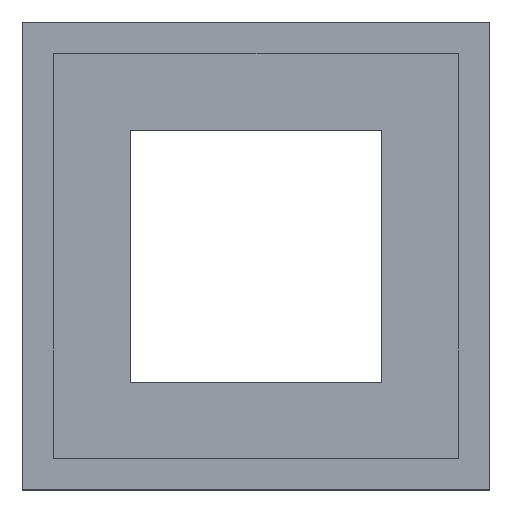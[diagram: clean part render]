
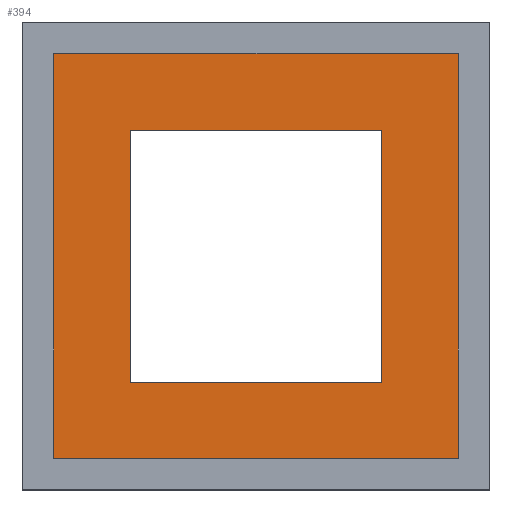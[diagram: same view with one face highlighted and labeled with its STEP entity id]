
A CAD part, top view. The second image highlights one B-rep face of the part: STEP entity #394.
In plain terms, the highlighted planar face has unit normal (0, 0, 1).
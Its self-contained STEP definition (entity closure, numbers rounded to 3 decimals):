
#233 = PLANE('',#234);
#234 = AXIS2_PLACEMENT_3D('',#235,#236,#237);
#235 = CARTESIAN_POINT('',(-11.25,-11.25,1.4));
#236 = DIRECTION('',(0.,1.,0.));
#237 = DIRECTION('',(0.,0.,1.));
#259 = PLANE('',#260);
#260 = AXIS2_PLACEMENT_3D('',#261,#262,#263);
#261 = CARTESIAN_POINT('',(-11.25,-11.25,1.4));
#262 = DIRECTION('',(1.,0.,0.));
#263 = DIRECTION('',(0.,0.,1.));
#285 = PLANE('',#286);
#286 = AXIS2_PLACEMENT_3D('',#287,#288,#289);
#287 = CARTESIAN_POINT('',(-11.25,11.25,1.4));
#288 = DIRECTION('',(0.,1.,0.));
#289 = DIRECTION('',(0.,0.,1.));
#309 = PLANE('',#310);
#310 = AXIS2_PLACEMENT_3D('',#311,#312,#313);
#311 = CARTESIAN_POINT('',(11.25,-11.25,1.4));
#312 = DIRECTION('',(1.,0.,0.));
#313 = DIRECTION('',(0.,0.,1.));
#324 = VERTEX_POINT('',#325);
#325 = CARTESIAN_POINT('',(-11.25,-11.25,1.5));
#346 = EDGE_CURVE('',#324,#347,#349,.T.);
#347 = VERTEX_POINT('',#348);
#348 = CARTESIAN_POINT('',(-11.25,11.25,1.5));
#349 = SURFACE_CURVE('',#350,(#354,#360),.PCURVE_S1.);
#350 = LINE('',#351,#352);
#351 = CARTESIAN_POINT('',(-11.25,-12.125,1.5));
#352 = VECTOR('',#353,1.);
#353 = DIRECTION('',(0.,1.,0.));
#354 = PCURVE('',#259,#355);
#355 = DEFINITIONAL_REPRESENTATION('',(#356),#359);
#356 = B_SPLINE_CURVE_WITH_KNOTS('',1,(#357,#358),.UNSPECIFIED.,.F.,.F.,
  (2,2),(0.875,23.375),.PIECEWISE_BEZIER_KNOTS.);
#357 = CARTESIAN_POINT('',(0.1,0.));
#358 = CARTESIAN_POINT('',(0.1,-22.5));
#359 = ( GEOMETRIC_REPRESENTATION_CONTEXT(2) 
PARAMETRIC_REPRESENTATION_CONTEXT() REPRESENTATION_CONTEXT('2D SPACE',''
  ) );
#360 = PCURVE('',#361,#366);
#361 = PLANE('',#362);
#362 = AXIS2_PLACEMENT_3D('',#363,#364,#365);
#363 = CARTESIAN_POINT('',(-13.,-13.,1.5));
#364 = DIRECTION('',(0.,0.,1.));
#365 = DIRECTION('',(1.,0.,0.));
#366 = DEFINITIONAL_REPRESENTATION('',(#367),#371);
#367 = LINE('',#368,#369);
#368 = CARTESIAN_POINT('',(1.75,0.875));
#369 = VECTOR('',#370,1.);
#370 = DIRECTION('',(0.,1.));
#371 = ( GEOMETRIC_REPRESENTATION_CONTEXT(2) 
PARAMETRIC_REPRESENTATION_CONTEXT() REPRESENTATION_CONTEXT('2D SPACE',''
  ) );
#394 = ADVANCED_FACE('',(#395,#462),#361,.T.);
#395 = FACE_BOUND('',#396,.T.);
#396 = EDGE_LOOP('',(#397,#419,#441,#461));
#397 = ORIENTED_EDGE('',*,*,#398,.F.);
#398 = EDGE_CURVE('',#399,#324,#401,.T.);
#399 = VERTEX_POINT('',#400);
#400 = CARTESIAN_POINT('',(11.25,-11.25,1.5));
#401 = SURFACE_CURVE('',#402,(#406,#413),.PCURVE_S1.);
#402 = LINE('',#403,#404);
#403 = CARTESIAN_POINT('',(-12.125,-11.25,1.5));
#404 = VECTOR('',#405,1.);
#405 = DIRECTION('',(-1.,0.,0.));
#406 = PCURVE('',#361,#407);
#407 = DEFINITIONAL_REPRESENTATION('',(#408),#412);
#408 = LINE('',#409,#410);
#409 = CARTESIAN_POINT('',(0.875,1.75));
#410 = VECTOR('',#411,1.);
#411 = DIRECTION('',(-1.,0.));
#412 = ( GEOMETRIC_REPRESENTATION_CONTEXT(2) 
PARAMETRIC_REPRESENTATION_CONTEXT() REPRESENTATION_CONTEXT('2D SPACE',''
  ) );
#413 = PCURVE('',#233,#414);
#414 = DEFINITIONAL_REPRESENTATION('',(#415),#418);
#415 = B_SPLINE_CURVE_WITH_KNOTS('',1,(#416,#417),.UNSPECIFIED.,.F.,.F.,
  (2,2),(-23.375,-0.875),.PIECEWISE_BEZIER_KNOTS.);
#416 = CARTESIAN_POINT('',(0.1,22.5));
#417 = CARTESIAN_POINT('',(0.1,0.));
#418 = ( GEOMETRIC_REPRESENTATION_CONTEXT(2) 
PARAMETRIC_REPRESENTATION_CONTEXT() REPRESENTATION_CONTEXT('2D SPACE',''
  ) );
#419 = ORIENTED_EDGE('',*,*,#420,.T.);
#420 = EDGE_CURVE('',#399,#421,#423,.T.);
#421 = VERTEX_POINT('',#422);
#422 = CARTESIAN_POINT('',(11.25,11.25,1.5));
#423 = SURFACE_CURVE('',#424,(#428,#435),.PCURVE_S1.);
#424 = LINE('',#425,#426);
#425 = CARTESIAN_POINT('',(11.25,-12.125,1.5));
#426 = VECTOR('',#427,1.);
#427 = DIRECTION('',(0.,1.,0.));
#428 = PCURVE('',#361,#429);
#429 = DEFINITIONAL_REPRESENTATION('',(#430),#434);
#430 = LINE('',#431,#432);
#431 = CARTESIAN_POINT('',(24.25,0.875));
#432 = VECTOR('',#433,1.);
#433 = DIRECTION('',(0.,1.));
#434 = ( GEOMETRIC_REPRESENTATION_CONTEXT(2) 
PARAMETRIC_REPRESENTATION_CONTEXT() REPRESENTATION_CONTEXT('2D SPACE',''
  ) );
#435 = PCURVE('',#309,#436);
#436 = DEFINITIONAL_REPRESENTATION('',(#437),#440);
#437 = B_SPLINE_CURVE_WITH_KNOTS('',1,(#438,#439),.UNSPECIFIED.,.F.,.F.,
  (2,2),(0.875,23.375),.PIECEWISE_BEZIER_KNOTS.);
#438 = CARTESIAN_POINT('',(0.1,0.));
#439 = CARTESIAN_POINT('',(0.1,-22.5));
#440 = ( GEOMETRIC_REPRESENTATION_CONTEXT(2) 
PARAMETRIC_REPRESENTATION_CONTEXT() REPRESENTATION_CONTEXT('2D SPACE',''
  ) );
#441 = ORIENTED_EDGE('',*,*,#442,.T.);
#442 = EDGE_CURVE('',#421,#347,#443,.T.);
#443 = SURFACE_CURVE('',#444,(#448,#455),.PCURVE_S1.);
#444 = LINE('',#445,#446);
#445 = CARTESIAN_POINT('',(-12.125,11.25,1.5));
#446 = VECTOR('',#447,1.);
#447 = DIRECTION('',(-1.,0.,0.));
#448 = PCURVE('',#361,#449);
#449 = DEFINITIONAL_REPRESENTATION('',(#450),#454);
#450 = LINE('',#451,#452);
#451 = CARTESIAN_POINT('',(0.875,24.25));
#452 = VECTOR('',#453,1.);
#453 = DIRECTION('',(-1.,0.));
#454 = ( GEOMETRIC_REPRESENTATION_CONTEXT(2) 
PARAMETRIC_REPRESENTATION_CONTEXT() REPRESENTATION_CONTEXT('2D SPACE',''
  ) );
#455 = PCURVE('',#285,#456);
#456 = DEFINITIONAL_REPRESENTATION('',(#457),#460);
#457 = B_SPLINE_CURVE_WITH_KNOTS('',1,(#458,#459),.UNSPECIFIED.,.F.,.F.,
  (2,2),(-23.375,-0.875),.PIECEWISE_BEZIER_KNOTS.);
#458 = CARTESIAN_POINT('',(0.1,22.5));
#459 = CARTESIAN_POINT('',(0.1,0.));
#460 = ( GEOMETRIC_REPRESENTATION_CONTEXT(2) 
PARAMETRIC_REPRESENTATION_CONTEXT() REPRESENTATION_CONTEXT('2D SPACE',''
  ) );
#461 = ORIENTED_EDGE('',*,*,#346,.F.);
#462 = FACE_BOUND('',#463,.T.);
#463 = EDGE_LOOP('',(#464,#492,#518,#544));
#464 = ORIENTED_EDGE('',*,*,#465,.T.);
#465 = EDGE_CURVE('',#466,#468,#470,.T.);
#466 = VERTEX_POINT('',#467);
#467 = CARTESIAN_POINT('',(7.,-7.,1.5));
#468 = VERTEX_POINT('',#469);
#469 = CARTESIAN_POINT('',(-7.,-7.,1.5));
#470 = SURFACE_CURVE('',#471,(#475,#481),.PCURVE_S1.);
#471 = LINE('',#472,#473);
#472 = CARTESIAN_POINT('',(-10.,-7.,1.5));
#473 = VECTOR('',#474,1.);
#474 = DIRECTION('',(-1.,0.,0.));
#475 = PCURVE('',#361,#476);
#476 = DEFINITIONAL_REPRESENTATION('',(#477),#480);
#477 = B_SPLINE_CURVE_WITH_KNOTS('',1,(#478,#479),.UNSPECIFIED.,.F.,.F.,
  (2,2),(-17.,-3.),.PIECEWISE_BEZIER_KNOTS.);
#478 = CARTESIAN_POINT('',(20.,6.));
#479 = CARTESIAN_POINT('',(6.,6.));
#480 = ( GEOMETRIC_REPRESENTATION_CONTEXT(2) 
PARAMETRIC_REPRESENTATION_CONTEXT() REPRESENTATION_CONTEXT('2D SPACE',''
  ) );
#481 = PCURVE('',#482,#487);
#482 = PLANE('',#483);
#483 = AXIS2_PLACEMENT_3D('',#484,#485,#486);
#484 = CARTESIAN_POINT('',(-7.,-7.,-0.2));
#485 = DIRECTION('',(0.,1.,0.));
#486 = DIRECTION('',(0.,0.,1.));
#487 = DEFINITIONAL_REPRESENTATION('',(#488),#491);
#488 = B_SPLINE_CURVE_WITH_KNOTS('',1,(#489,#490),.UNSPECIFIED.,.F.,.F.,
  (2,2),(-17.,-3.),.PIECEWISE_BEZIER_KNOTS.);
#489 = CARTESIAN_POINT('',(1.7,14.));
#490 = CARTESIAN_POINT('',(1.7,0.));
#491 = ( GEOMETRIC_REPRESENTATION_CONTEXT(2) 
PARAMETRIC_REPRESENTATION_CONTEXT() REPRESENTATION_CONTEXT('2D SPACE',''
  ) );
#492 = ORIENTED_EDGE('',*,*,#493,.T.);
#493 = EDGE_CURVE('',#468,#494,#496,.T.);
#494 = VERTEX_POINT('',#495);
#495 = CARTESIAN_POINT('',(-7.,7.,1.5));
#496 = SURFACE_CURVE('',#497,(#501,#507),.PCURVE_S1.);
#497 = LINE('',#498,#499);
#498 = CARTESIAN_POINT('',(-7.,-10.,1.5));
#499 = VECTOR('',#500,1.);
#500 = DIRECTION('',(0.,1.,0.));
#501 = PCURVE('',#361,#502);
#502 = DEFINITIONAL_REPRESENTATION('',(#503),#506);
#503 = B_SPLINE_CURVE_WITH_KNOTS('',1,(#504,#505),.UNSPECIFIED.,.F.,.F.,
  (2,2),(3.,17.),.PIECEWISE_BEZIER_KNOTS.);
#504 = CARTESIAN_POINT('',(6.,6.));
#505 = CARTESIAN_POINT('',(6.,20.));
#506 = ( GEOMETRIC_REPRESENTATION_CONTEXT(2) 
PARAMETRIC_REPRESENTATION_CONTEXT() REPRESENTATION_CONTEXT('2D SPACE',''
  ) );
#507 = PCURVE('',#508,#513);
#508 = PLANE('',#509);
#509 = AXIS2_PLACEMENT_3D('',#510,#511,#512);
#510 = CARTESIAN_POINT('',(-7.,-7.,-0.2));
#511 = DIRECTION('',(1.,0.,0.));
#512 = DIRECTION('',(0.,0.,1.));
#513 = DEFINITIONAL_REPRESENTATION('',(#514),#517);
#514 = B_SPLINE_CURVE_WITH_KNOTS('',1,(#515,#516),.UNSPECIFIED.,.F.,.F.,
  (2,2),(3.,17.),.PIECEWISE_BEZIER_KNOTS.);
#515 = CARTESIAN_POINT('',(1.7,0.));
#516 = CARTESIAN_POINT('',(1.7,-14.));
#517 = ( GEOMETRIC_REPRESENTATION_CONTEXT(2) 
PARAMETRIC_REPRESENTATION_CONTEXT() REPRESENTATION_CONTEXT('2D SPACE',''
  ) );
#518 = ORIENTED_EDGE('',*,*,#519,.F.);
#519 = EDGE_CURVE('',#520,#494,#522,.T.);
#520 = VERTEX_POINT('',#521);
#521 = CARTESIAN_POINT('',(7.,7.,1.5));
#522 = SURFACE_CURVE('',#523,(#527,#533),.PCURVE_S1.);
#523 = LINE('',#524,#525);
#524 = CARTESIAN_POINT('',(-10.,7.,1.5));
#525 = VECTOR('',#526,1.);
#526 = DIRECTION('',(-1.,0.,0.));
#527 = PCURVE('',#361,#528);
#528 = DEFINITIONAL_REPRESENTATION('',(#529),#532);
#529 = B_SPLINE_CURVE_WITH_KNOTS('',1,(#530,#531),.UNSPECIFIED.,.F.,.F.,
  (2,2),(-17.,-3.),.PIECEWISE_BEZIER_KNOTS.);
#530 = CARTESIAN_POINT('',(20.,20.));
#531 = CARTESIAN_POINT('',(6.,20.));
#532 = ( GEOMETRIC_REPRESENTATION_CONTEXT(2) 
PARAMETRIC_REPRESENTATION_CONTEXT() REPRESENTATION_CONTEXT('2D SPACE',''
  ) );
#533 = PCURVE('',#534,#539);
#534 = PLANE('',#535);
#535 = AXIS2_PLACEMENT_3D('',#536,#537,#538);
#536 = CARTESIAN_POINT('',(-7.,7.,-0.2));
#537 = DIRECTION('',(0.,1.,0.));
#538 = DIRECTION('',(0.,0.,1.));
#539 = DEFINITIONAL_REPRESENTATION('',(#540),#543);
#540 = B_SPLINE_CURVE_WITH_KNOTS('',1,(#541,#542),.UNSPECIFIED.,.F.,.F.,
  (2,2),(-17.,-3.),.PIECEWISE_BEZIER_KNOTS.);
#541 = CARTESIAN_POINT('',(1.7,14.));
#542 = CARTESIAN_POINT('',(1.7,0.));
#543 = ( GEOMETRIC_REPRESENTATION_CONTEXT(2) 
PARAMETRIC_REPRESENTATION_CONTEXT() REPRESENTATION_CONTEXT('2D SPACE',''
  ) );
#544 = ORIENTED_EDGE('',*,*,#545,.F.);
#545 = EDGE_CURVE('',#466,#520,#546,.T.);
#546 = SURFACE_CURVE('',#547,(#551,#557),.PCURVE_S1.);
#547 = LINE('',#548,#549);
#548 = CARTESIAN_POINT('',(7.,-10.,1.5));
#549 = VECTOR('',#550,1.);
#550 = DIRECTION('',(0.,1.,0.));
#551 = PCURVE('',#361,#552);
#552 = DEFINITIONAL_REPRESENTATION('',(#553),#556);
#553 = B_SPLINE_CURVE_WITH_KNOTS('',1,(#554,#555),.UNSPECIFIED.,.F.,.F.,
  (2,2),(3.,17.),.PIECEWISE_BEZIER_KNOTS.);
#554 = CARTESIAN_POINT('',(20.,6.));
#555 = CARTESIAN_POINT('',(20.,20.));
#556 = ( GEOMETRIC_REPRESENTATION_CONTEXT(2) 
PARAMETRIC_REPRESENTATION_CONTEXT() REPRESENTATION_CONTEXT('2D SPACE',''
  ) );
#557 = PCURVE('',#558,#563);
#558 = PLANE('',#559);
#559 = AXIS2_PLACEMENT_3D('',#560,#561,#562);
#560 = CARTESIAN_POINT('',(7.,-7.,-0.2));
#561 = DIRECTION('',(1.,0.,0.));
#562 = DIRECTION('',(0.,0.,1.));
#563 = DEFINITIONAL_REPRESENTATION('',(#564),#567);
#564 = B_SPLINE_CURVE_WITH_KNOTS('',1,(#565,#566),.UNSPECIFIED.,.F.,.F.,
  (2,2),(3.,17.),.PIECEWISE_BEZIER_KNOTS.);
#565 = CARTESIAN_POINT('',(1.7,0.));
#566 = CARTESIAN_POINT('',(1.7,-14.));
#567 = ( GEOMETRIC_REPRESENTATION_CONTEXT(2) 
PARAMETRIC_REPRESENTATION_CONTEXT() REPRESENTATION_CONTEXT('2D SPACE',''
  ) );
